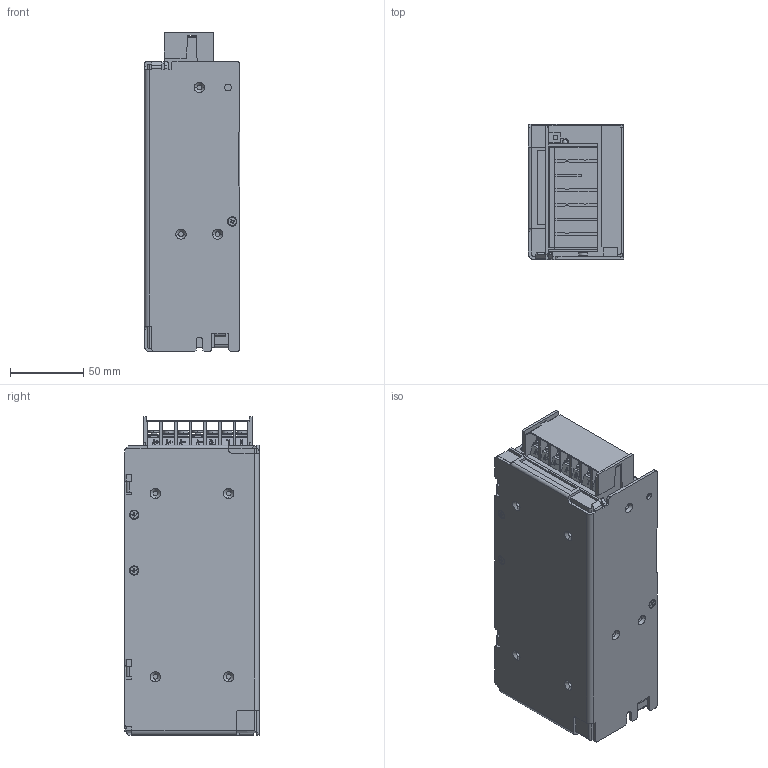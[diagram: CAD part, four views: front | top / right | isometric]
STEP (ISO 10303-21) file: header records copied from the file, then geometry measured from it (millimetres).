
FILE_DESCRIPTION (( 'STEP AP214' ), '1' );
FILE_NAME ('JWS120P_OUTLINE.STEP', '2006-10-04T02:43:23', ( ' ' ), ( ' ' ), 'SwSTEP 2.0', 'SolidWorks 2006104', '' );
FILE_SCHEMA (( 'AUTOMOTIVE_DESIGN' ));
Length unit declared in the file: millimetre
Products named in the file (1): JWS120P_OUTLINE
Bounding box: 65 x 92 x 217.5 mm (x, y, z)
Volume: 1110937.4 mm3; surface area: 98607.9 mm2
Topology: 4 solids, 4 shells, 1262 faces, 3383 edges, 2212 vertices
Faces by surface type: plane 932, cylinder 198, bspline 75, cone 57
Entity records: 57056 total; most frequent: CARTESIAN_POINT 11674, ORIENTED_EDGE 6762, DIRECTION 6040, EDGE_CURVE 3381, VECTOR 2684, LINE 2684, VERTEX_POINT 2212, AXIS2_PLACEMENT_3D 1678
